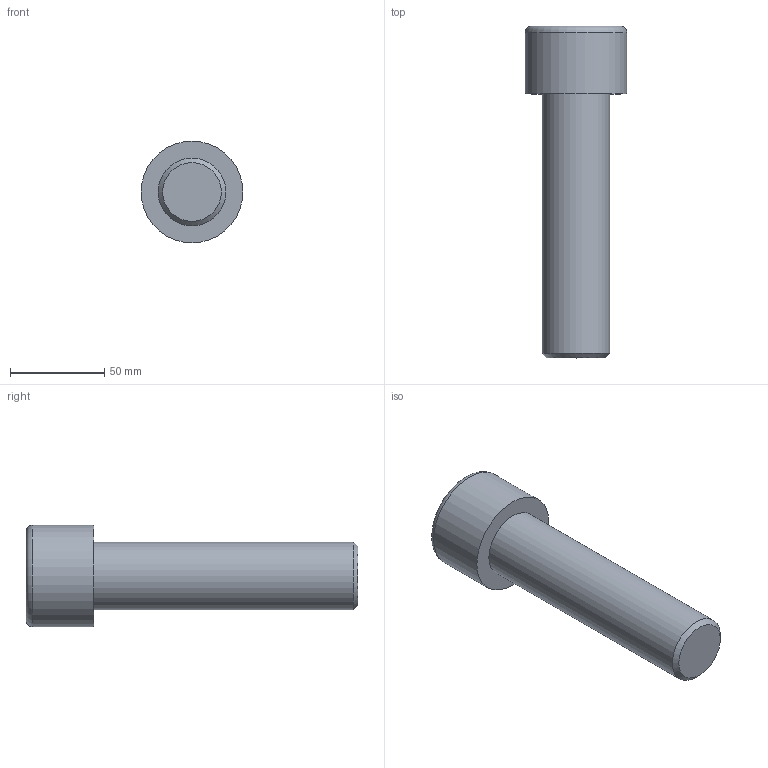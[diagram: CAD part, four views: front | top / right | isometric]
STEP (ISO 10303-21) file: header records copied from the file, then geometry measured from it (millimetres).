
FILE_DESCRIPTION(/* description */ (''),/* implementation_level */ '2;1');
FILE_NAME(/* name */ 'C:\Users\D\Documents\Inventor\各種小物\JIS\JIS B 1176 六角穴付きボルト\M36x140.stp',/* time_stamp */ '2022-05-09T19:04:03+09:00',/* author */ ('D'),/* organization */ (''),/* preprocessor_version */ 'ST-DEVELOPER v18',/* originating_system */ 'Autodesk Inventor 2020',/* authorisation */ '');
FILE_SCHEMA (('AUTOMOTIVE_DESIGN { 1 0 10303 214 3 1 1 }'));
Length unit declared in the file: millimetre
Products named in the file (1): M1.6x2.5
Bounding box: 54 x 176 x 54 mm (x, y, z)
Volume: 209946.1 mm3; surface area: 28032.2 mm2
Topology: 1 solids, 1 shells, 14 faces, 33 edges, 22 vertices
Faces by surface type: plane 9, cone 2, cylinder 2, torus 1
Full cylindrical faces by diameter (mm): 36 x1, 54 x1
Entity records: 435 total; most frequent: CARTESIAN_POINT 83, ORIENTED_EDGE 64, DIRECTION 64, EDGE_CURVE 32, AXIS2_PLACEMENT_3D 24, VERTEX_POINT 22, EDGE_LOOP 16, LINE 16
